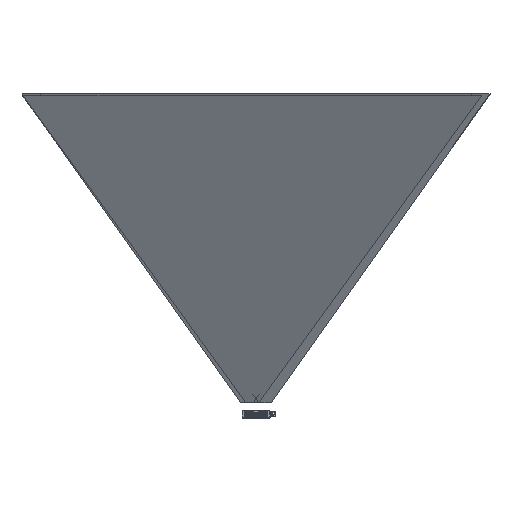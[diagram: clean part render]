
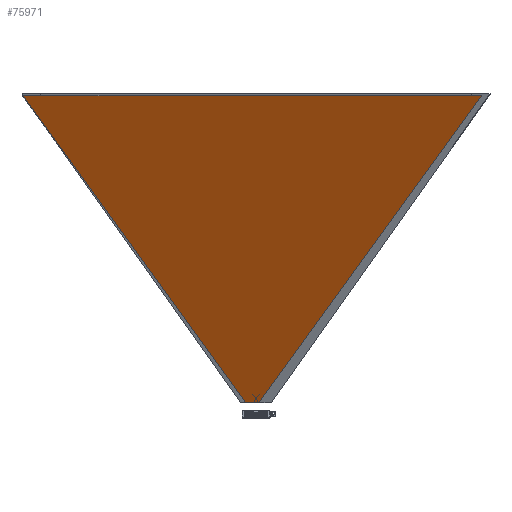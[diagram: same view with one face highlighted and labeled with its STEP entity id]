
A CAD part, top view. The second image highlights one B-rep face of the part: STEP entity #75971.
In plain terms, the highlighted planar face has unit normal (0, -0.509, 0.861).
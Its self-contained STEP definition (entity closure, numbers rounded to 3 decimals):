
#75867=DIRECTION('',(-0.53,-0.73,-0.432));
#75868=VECTOR('',#75867,2789.04);
#75869=CARTESIAN_POINT('',(1498.064,2120.104,1239.381));
#75870=LINE('',#75869,#75868);
#75883=DIRECTION('',(-1.,0.,0.));
#75884=VECTOR('',#75883,87.578);
#75885=CARTESIAN_POINT('',(19.254,84.696,35.644));
#75886=LINE('',#75885,#75884);
#75887=DIRECTION('',(0.53,-0.73,-0.432));
#75888=VECTOR('',#75887,2789.04);
#75889=CARTESIAN_POINT('',(-1547.134,2120.104,
1239.381));
#75890=LINE('',#75889,#75888);
#75891=DIRECTION('',(1.,0.,0.));
#75892=VECTOR('',#75891,3045.198);
#75893=CARTESIAN_POINT('',(-1547.134,2120.104,
1239.381));
#75894=LINE('',#75893,#75892);
#75919=CARTESIAN_POINT('',(19.254,84.696,35.644));
#75921=VERTEX_POINT('',#75919);
#75926=CARTESIAN_POINT('',(1498.064,2120.104,1239.381));
#75928=VERTEX_POINT('',#75926);
#75929=CARTESIAN_POINT('',(-68.324,84.696,
35.644));
#75930=VERTEX_POINT('',#75929);
#75931=CARTESIAN_POINT('',(-1547.134,2120.104,
1239.381));
#75932=VERTEX_POINT('',#75931);
#75957=CARTESIAN_POINT('',(-24.535,1102.4,637.512));
#75958=DIRECTION('',(0.,-0.509,0.861));
#75959=DIRECTION('',(0.,-0.861,-0.509));
#75960=AXIS2_PLACEMENT_3D('',#75957,#75958,#75959);
#75961=PLANE('',#75960);
#75963=ORIENTED_EDGE('',*,*,#75962,.T.);
#75965=ORIENTED_EDGE('',*,*,#75964,.F.);
#75967=ORIENTED_EDGE('',*,*,#75966,.T.);
#75968=ORIENTED_EDGE('',*,*,#75946,.T.);
#75969=EDGE_LOOP('',(#75963,#75965,#75967,#75968));
#75970=FACE_OUTER_BOUND('',#75969,.F.);
#75946=EDGE_CURVE('',#75928,#75921,#75870,.T.);
#75962=EDGE_CURVE('',#75921,#75930,#75886,.T.);
#75964=EDGE_CURVE('',#75932,#75930,#75890,.T.);
#75966=EDGE_CURVE('',#75932,#75928,#75894,.T.);
#75971=ADVANCED_FACE('',(#75970),#75961,.T.);
